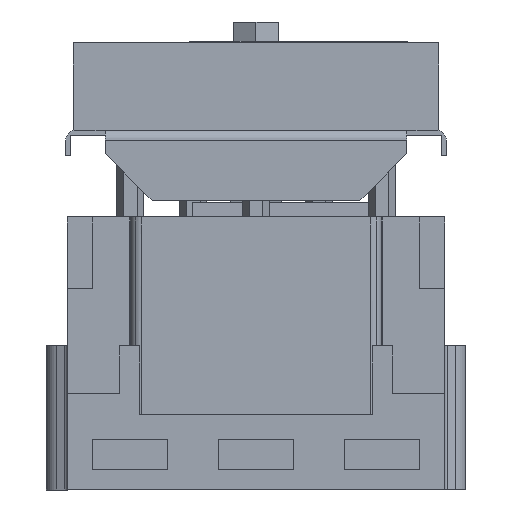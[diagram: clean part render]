
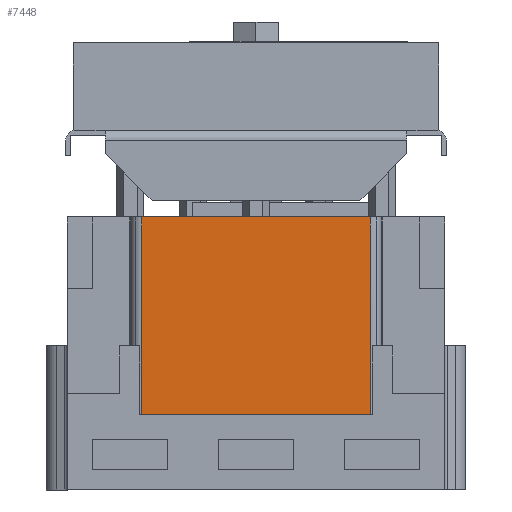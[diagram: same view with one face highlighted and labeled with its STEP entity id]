
A CAD part, front view. The second image highlights one B-rep face of the part: STEP entity #7448.
In plain terms, the highlighted planar face has unit normal (0, -1, 0).
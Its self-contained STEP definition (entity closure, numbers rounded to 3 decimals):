
#96 = CARTESIAN_POINT ( 'NONE',  ( -180.5, -0.2, 162.85 ) ) ;
#153 = FACE_OUTER_BOUND ( 'NONE', #6655, .T. ) ;
#489 = CARTESIAN_POINT ( 'NONE',  ( -180.5, -0.2, -71.493 ) ) ;
#545 = VERTEX_POINT ( 'NONE', #3599 ) ;
#561 = ORIENTED_EDGE ( 'NONE', *, *, #1928, .T. ) ;
#1301 = EDGE_CURVE ( 'NONE', #7841, #545, #8888, .T. ) ;
#1507 = CARTESIAN_POINT ( 'NONE',  ( -180.5, -0.2, 162.85 ) ) ;
#1632 = AXIS2_PLACEMENT_3D ( 'NONE', #489, #6040, #1877 ) ;
#1867 = VECTOR ( 'NONE', #6372, 1000. ) ;
#1877 = DIRECTION ( 'NONE',  ( 1., 0., 0. ) ) ;
#1928 = EDGE_CURVE ( 'NONE', #7841, #4336, #3723, .T. ) ;
#2631 = VECTOR ( 'NONE', #4283, 1000. ) ;
#3412 = ORIENTED_EDGE ( 'NONE', *, *, #1301, .F. ) ;
#3599 = CARTESIAN_POINT ( 'NONE',  ( -180.5, -0.2, 45. ) ) ;
#3723 = LINE ( 'NONE', #5716, #1867 ) ;
#3842 = VECTOR ( 'NONE', #6144, 1000. ) ;
#3899 = CARTESIAN_POINT ( 'NONE',  ( -44.5, -0.2, 45. ) ) ;
#4051 = LINE ( 'NONE', #96, #3842 ) ;
#4283 = DIRECTION ( 'NONE',  ( 0., 0., 1. ) ) ;
#4336 = VERTEX_POINT ( 'NONE', #7946 ) ;
#4491 = LINE ( 'NONE', #5652, #2631 ) ;
#4626 = PLANE ( 'NONE',  #1632 ) ;
#5245 = VECTOR ( 'NONE', #7298, 1000. ) ;
#5304 = EDGE_CURVE ( 'NONE', #8715, #4336, #4051, .T. ) ;
#5652 = CARTESIAN_POINT ( 'NONE',  ( -180.5, -0.2, -71.493 ) ) ;
#5716 = CARTESIAN_POINT ( 'NONE',  ( -44.5, -0.2, -71.493 ) ) ;
#6040 = DIRECTION ( 'NONE',  ( 0., -1., 0. ) ) ;
#6144 = DIRECTION ( 'NONE',  ( 1., 0., 0. ) ) ;
#6372 = DIRECTION ( 'NONE',  ( 0., 0., 1. ) ) ;
#6565 = ORIENTED_EDGE ( 'NONE', *, *, #6828, .F. ) ;
#6655 = EDGE_LOOP ( 'NONE', ( #6565, #3412, #561, #6723 ) ) ;
#6723 = ORIENTED_EDGE ( 'NONE', *, *, #5304, .F. ) ;
#6828 = EDGE_CURVE ( 'NONE', #545, #8715, #4491, .T. ) ;
#7298 = DIRECTION ( 'NONE',  ( -1., 0., 0. ) ) ;
#7448 = ADVANCED_FACE ( 'NONE', ( #153 ), #4626, .T. ) ;
#7841 = VERTEX_POINT ( 'NONE', #7963 ) ;
#7946 = CARTESIAN_POINT ( 'NONE',  ( -44.5, -0.2, 162.85 ) ) ;
#7963 = CARTESIAN_POINT ( 'NONE',  ( -44.5, -0.2, 45. ) ) ;
#8715 = VERTEX_POINT ( 'NONE', #1507 ) ;
#8888 = LINE ( 'NONE', #3899, #5245 ) ;
